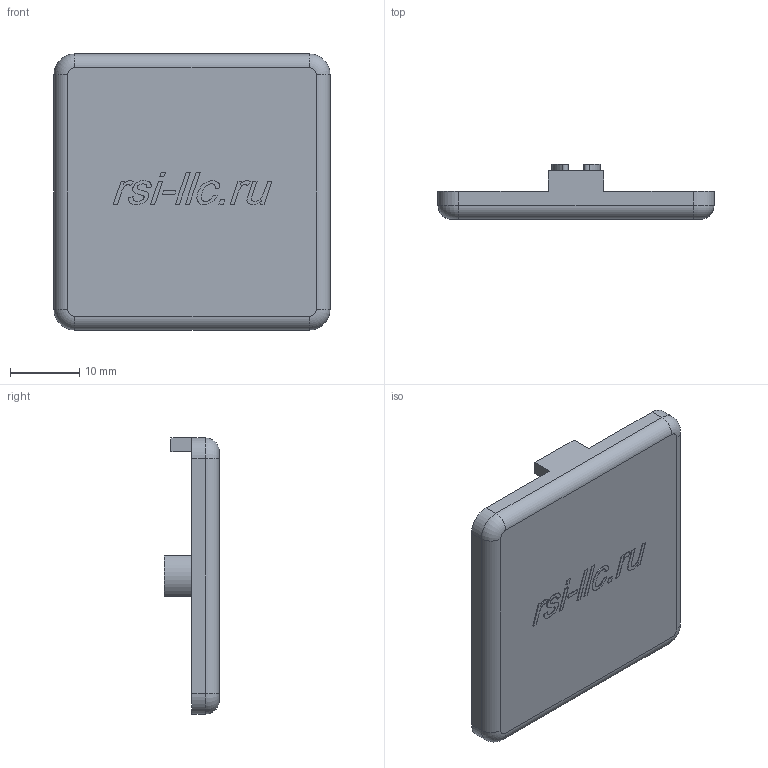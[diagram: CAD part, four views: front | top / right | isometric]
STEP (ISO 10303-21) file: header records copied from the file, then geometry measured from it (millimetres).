
FILE_DESCRIPTION (( 'STEP AP214' ), '1' );
FILE_NAME ('4003.STEP', '2020-10-20T12:36:05', ( '' ), ( '' ), 'SwSTEP 2.0', 'SolidWorks 2018', '' );
FILE_SCHEMA (( 'AUTOMOTIVE_DESIGN' ));
Length unit declared in the file: millimetre
Products named in the file (1): 4003
Bounding box: 40 x 8.1 x 40 mm (x, y, z)
Volume: 3802.3 mm3; surface area: 4162 mm2
Topology: 1 solids, 1 shells, 154 faces, 391 edges, 252 vertices
Faces by surface type: plane 78, bspline 32, cylinder 26, torus 18
Entity records: 7415 total; most frequent: CARTESIAN_POINT 2782, ORIENTED_EDGE 782, DIRECTION 653, EDGE_CURVE 391, VERTEX_POINT 252, LINE 247, VECTOR 247, AXIS2_PLACEMENT_3D 203
